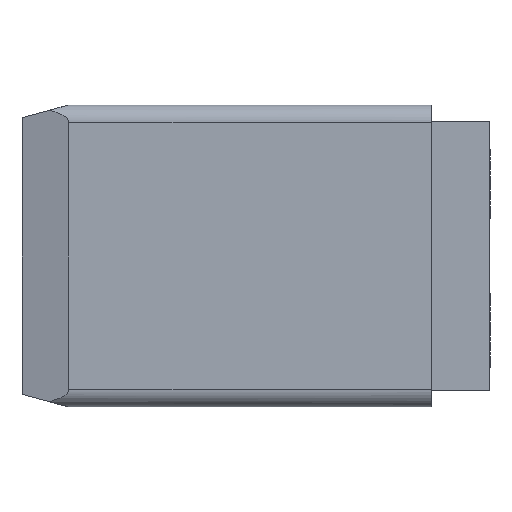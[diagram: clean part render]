
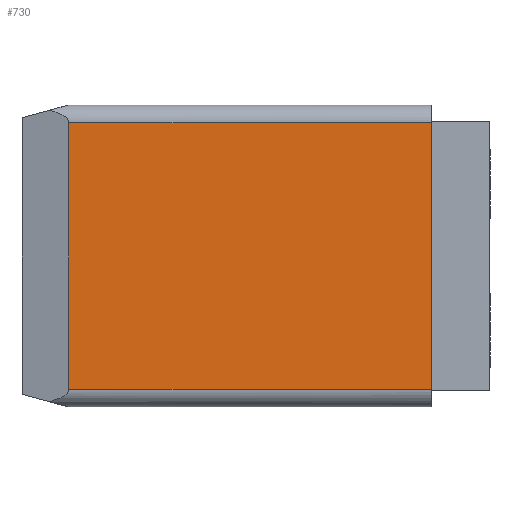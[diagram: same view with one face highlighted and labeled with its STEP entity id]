
A CAD part, left-side view. The second image highlights one B-rep face of the part: STEP entity #730.
In plain terms, the highlighted planar face has unit normal (-1, 0, 0).
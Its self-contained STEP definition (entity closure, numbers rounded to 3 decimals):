
#4 = VERTEX_POINT ( 'NONE', #786 ) ;
#7 = DIRECTION ( 'NONE',  ( 1., 0., 0. ) ) ;
#10 = PLANE ( 'NONE',  #168 ) ;
#12 = ORIENTED_EDGE ( 'NONE', *, *, #753, .T. ) ;
#125 = VERTEX_POINT ( 'NONE', #778 ) ;
#166 = ORIENTED_EDGE ( 'NONE', *, *, #703, .T. ) ;
#168 = AXIS2_PLACEMENT_3D ( 'NONE', #830, #7, #653 ) ;
#191 = CARTESIAN_POINT ( 'NONE',  ( -12.9, 5., 12.9 ) ) ;
#216 = VECTOR ( 'NONE', #1183, 1000. ) ;
#251 = ORIENTED_EDGE ( 'NONE', *, *, #898, .T. ) ;
#291 = DIRECTION ( 'NONE',  ( 0., 0., -1. ) ) ;
#326 = LINE ( 'NONE', #191, #536 ) ;
#362 = DIRECTION ( 'NONE',  ( 0., -1., 0. ) ) ;
#414 = CARTESIAN_POINT ( 'NONE',  ( -12.9, 36., -11.4 ) ) ;
#473 = DIRECTION ( 'NONE',  ( 0., 0., -1. ) ) ;
#484 = VERTEX_POINT ( 'NONE', #1161 ) ;
#515 = VECTOR ( 'NONE', #362, 1000. ) ;
#531 = CARTESIAN_POINT ( 'NONE',  ( -12.9, 36., 11.4 ) ) ;
#536 = VECTOR ( 'NONE', #291, 1000. ) ;
#648 = LINE ( 'NONE', #1035, #1121 ) ;
#653 = DIRECTION ( 'NONE',  ( 0., 0., -1. ) ) ;
#703 = EDGE_CURVE ( 'NONE', #484, #125, #709, .T. ) ;
#709 = LINE ( 'NONE', #531, #216 ) ;
#730 = ADVANCED_FACE ( 'NONE', ( #1174 ), #10, .F. ) ;
#753 = EDGE_CURVE ( 'NONE', #125, #1151, #648, .T. ) ;
#769 = LINE ( 'NONE', #1200, #515 ) ;
#778 = CARTESIAN_POINT ( 'NONE',  ( -12.9, 36., 11.4 ) ) ;
#786 = CARTESIAN_POINT ( 'NONE',  ( -12.9, 5., -11.4 ) ) ;
#830 = CARTESIAN_POINT ( 'NONE',  ( -12.9, 36., 12.9 ) ) ;
#893 = ORIENTED_EDGE ( 'NONE', *, *, #1202, .F. ) ;
#898 = EDGE_CURVE ( 'NONE', #1151, #4, #769, .T. ) ;
#937 = EDGE_LOOP ( 'NONE', ( #12, #251, #893, #166 ) ) ;
#1035 = CARTESIAN_POINT ( 'NONE',  ( -12.9, 36., 12.9 ) ) ;
#1121 = VECTOR ( 'NONE', #473, 1000. ) ;
#1151 = VERTEX_POINT ( 'NONE', #414 ) ;
#1161 = CARTESIAN_POINT ( 'NONE',  ( -12.9, 5., 11.4 ) ) ;
#1174 = FACE_OUTER_BOUND ( 'NONE', #937, .T. ) ;
#1183 = DIRECTION ( 'NONE',  ( 0., 1., 0. ) ) ;
#1200 = CARTESIAN_POINT ( 'NONE',  ( -12.9, 5., -11.4 ) ) ;
#1202 = EDGE_CURVE ( 'NONE', #484, #4, #326, .T. ) ;
